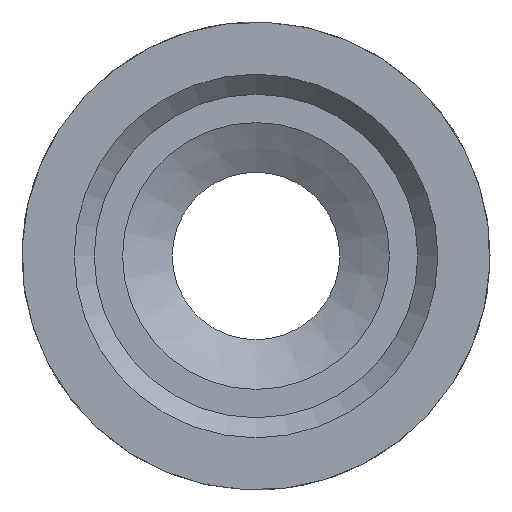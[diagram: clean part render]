
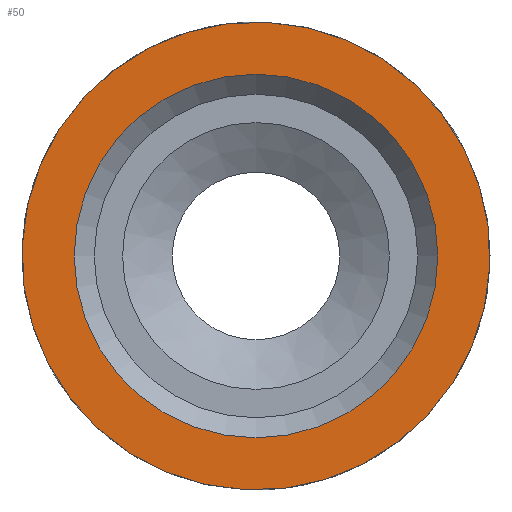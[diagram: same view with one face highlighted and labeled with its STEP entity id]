
A CAD part, front view. The second image highlights one B-rep face of the part: STEP entity #50.
In plain terms, the highlighted planar face has unit normal (0, -1, 0).
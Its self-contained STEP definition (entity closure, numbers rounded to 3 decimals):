
#50=ADVANCED_FACE('',(#168,#170),#172,.T.);
#168=FACE_BOUND('',#169,.T.);
#169=EDGE_LOOP('',(#822));
#170=FACE_BOUND('',#171,.T.);
#171=EDGE_LOOP('',(#823));
#172=PLANE('',#173);
#173=AXIS2_PLACEMENT_3D('',#174,#175,#176);
#174=CARTESIAN_POINT('',(0.,-21.8,0.));
#175=DIRECTION('',(0.,-1.,0.));
#176=DIRECTION('',(-1.,0.,0.));
#822=ORIENTED_EDGE('',*,*,#1026,.T.);
#823=ORIENTED_EDGE('',*,*,#1027,.T.);
#1026=EDGE_CURVE('',#1140,#1140,#1141,.T.);
#1027=EDGE_CURVE('',#1142,#1142,#1143,.F.);
#1140=VERTEX_POINT('',#1358);
#1141=CIRCLE('',#1359,17.45);
#1142=VERTEX_POINT('',#1363);
#1143=CIRCLE('',#1364,13.559);
#1358=CARTESIAN_POINT('',(-15.5,-21.8,-8.016));
#1359=AXIS2_PLACEMENT_3D('',#1360,#1361,#1362);
#1360=CARTESIAN_POINT('',(0.,-21.8,0.));
#1361=DIRECTION('',(0.,-1.,0.));
#1362=DIRECTION('',(-1.,0.,0.));
#1363=CARTESIAN_POINT('',(-13.559,-21.8,0.));
#1364=AXIS2_PLACEMENT_3D('',#1365,#1366,#1367);
#1365=CARTESIAN_POINT('',(0.,-21.8,0.));
#1366=DIRECTION('',(0.,-1.,0.));
#1367=DIRECTION('',(-1.,0.,0.));
